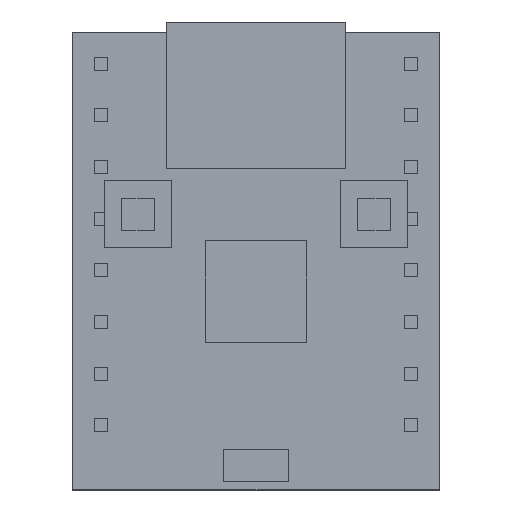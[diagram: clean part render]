
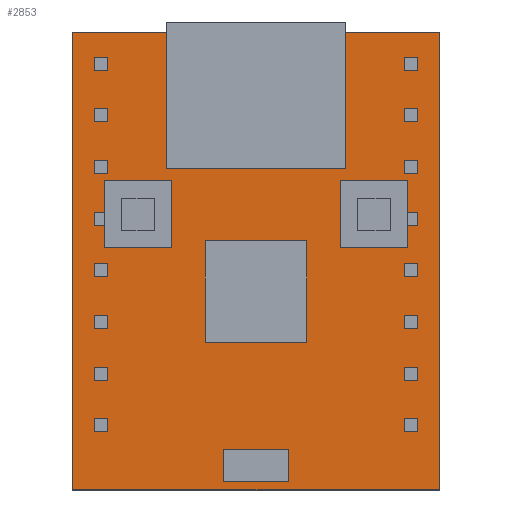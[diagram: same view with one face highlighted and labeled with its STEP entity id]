
A CAD part, top view. The second image highlights one B-rep face of the part: STEP entity #2853.
In plain terms, the highlighted planar face has unit normal (0, 0, 1).
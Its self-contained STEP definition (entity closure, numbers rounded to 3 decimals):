
#2724 = VERTEX_POINT('',#2725);
#2725 = CARTESIAN_POINT('',(-9.,-11.25,4.1));
#2731 = EDGE_CURVE('',#2724,#2732,#2734,.T.);
#2732 = VERTEX_POINT('',#2733);
#2733 = CARTESIAN_POINT('',(9.,-11.25,4.1));
#2734 = LINE('',#2735,#2736);
#2735 = CARTESIAN_POINT('',(-9.,-11.25,4.1));
#2736 = VECTOR('',#2737,1.);
#2737 = DIRECTION('',(1.,0.,0.));
#2762 = EDGE_CURVE('',#2732,#2763,#2765,.T.);
#2763 = VERTEX_POINT('',#2764);
#2764 = CARTESIAN_POINT('',(9.,11.25,4.1));
#2765 = LINE('',#2766,#2767);
#2766 = CARTESIAN_POINT('',(9.,-11.25,4.1));
#2767 = VECTOR('',#2768,1.);
#2768 = DIRECTION('',(0.,1.,0.));
#2793 = EDGE_CURVE('',#2763,#2794,#2796,.T.);
#2794 = VERTEX_POINT('',#2795);
#2795 = CARTESIAN_POINT('',(-9.,11.25,4.1));
#2796 = LINE('',#2797,#2798);
#2797 = CARTESIAN_POINT('',(9.,11.25,4.1));
#2798 = VECTOR('',#2799,1.);
#2799 = DIRECTION('',(-1.,0.,0.));
#2824 = EDGE_CURVE('',#2794,#2724,#2825,.T.);
#2825 = LINE('',#2826,#2827);
#2826 = CARTESIAN_POINT('',(-9.,11.25,4.1));
#2827 = VECTOR('',#2828,1.);
#2828 = DIRECTION('',(0.,-1.,0.));
#2853 = ADVANCED_FACE('',(#2854),#2860,.T.);
#2854 = FACE_BOUND('',#2855,.T.);
#2855 = EDGE_LOOP('',(#2856,#2857,#2858,#2859));
#2856 = ORIENTED_EDGE('',*,*,#2731,.T.);
#2857 = ORIENTED_EDGE('',*,*,#2762,.T.);
#2858 = ORIENTED_EDGE('',*,*,#2793,.T.);
#2859 = ORIENTED_EDGE('',*,*,#2824,.T.);
#2860 = PLANE('',#2861);
#2861 = AXIS2_PLACEMENT_3D('',#2862,#2863,#2864);
#2862 = CARTESIAN_POINT('',(0.,0.,4.1));
#2863 = DIRECTION('',(0.,0.,1.));
#2864 = DIRECTION('',(1.,0.,-0.));
